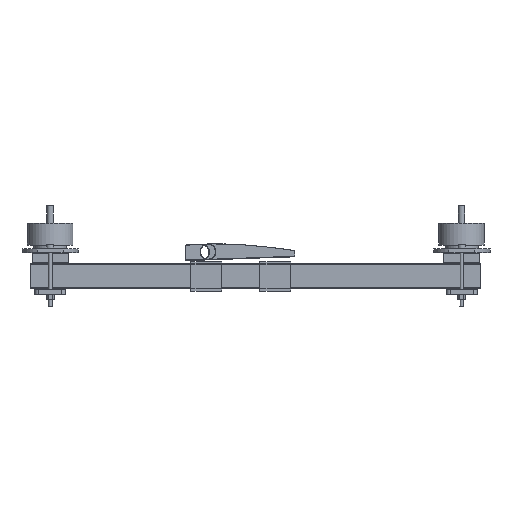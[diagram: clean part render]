
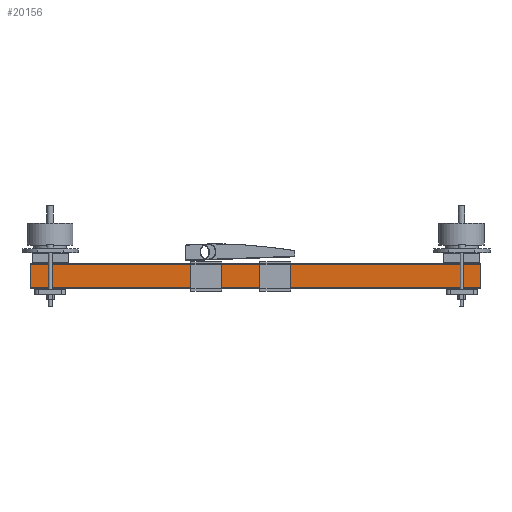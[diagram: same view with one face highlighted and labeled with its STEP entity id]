
A CAD part, front view. The second image highlights one B-rep face of the part: STEP entity #20156.
In plain terms, the highlighted planar face has unit normal (0, -1, 0).
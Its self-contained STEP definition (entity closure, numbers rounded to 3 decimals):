
#20086 = EDGE_CURVE('',#20087,#20089,#20091,.T.);
#20087 = VERTEX_POINT('',#20088);
#20088 = CARTESIAN_POINT('',(220.,-280.,-20.));
#20089 = VERTEX_POINT('',#20090);
#20090 = CARTESIAN_POINT('',(220.,-280.,0.));
#20091 = LINE('',#20092,#20093);
#20092 = CARTESIAN_POINT('',(220.,-280.,-20.));
#20093 = VECTOR('',#20094,1.);
#20094 = DIRECTION('',(0.,0.,1.));
#20156 = ADVANCED_FACE('',(#20157),#20182,.F.);
#20157 = FACE_BOUND('',#20158,.F.);
#20158 = EDGE_LOOP('',(#20159,#20167,#20168,#20176));
#20159 = ORIENTED_EDGE('',*,*,#20160,.F.);
#20160 = EDGE_CURVE('',#20087,#20161,#20163,.T.);
#20161 = VERTEX_POINT('',#20162);
#20162 = CARTESIAN_POINT('',(570.,-280.,-20.));
#20163 = LINE('',#20164,#20165);
#20164 = CARTESIAN_POINT('',(220.,-280.,-20.));
#20165 = VECTOR('',#20166,1.);
#20166 = DIRECTION('',(1.,0.,0.));
#20167 = ORIENTED_EDGE('',*,*,#20086,.T.);
#20168 = ORIENTED_EDGE('',*,*,#20169,.T.);
#20169 = EDGE_CURVE('',#20089,#20170,#20172,.T.);
#20170 = VERTEX_POINT('',#20171);
#20171 = CARTESIAN_POINT('',(570.,-280.,0.));
#20172 = LINE('',#20173,#20174);
#20173 = CARTESIAN_POINT('',(220.,-280.,0.));
#20174 = VECTOR('',#20175,1.);
#20175 = DIRECTION('',(1.,0.,0.));
#20176 = ORIENTED_EDGE('',*,*,#20177,.F.);
#20177 = EDGE_CURVE('',#20161,#20170,#20178,.T.);
#20178 = LINE('',#20179,#20180);
#20179 = CARTESIAN_POINT('',(570.,-280.,-20.));
#20180 = VECTOR('',#20181,1.);
#20181 = DIRECTION('',(0.,0.,1.));
#20182 = PLANE('',#20183);
#20183 = AXIS2_PLACEMENT_3D('',#20184,#20185,#20186);
#20184 = CARTESIAN_POINT('',(220.,-280.,-20.));
#20185 = DIRECTION('',(0.,1.,0.));
#20186 = DIRECTION('',(0.,0.,1.));
